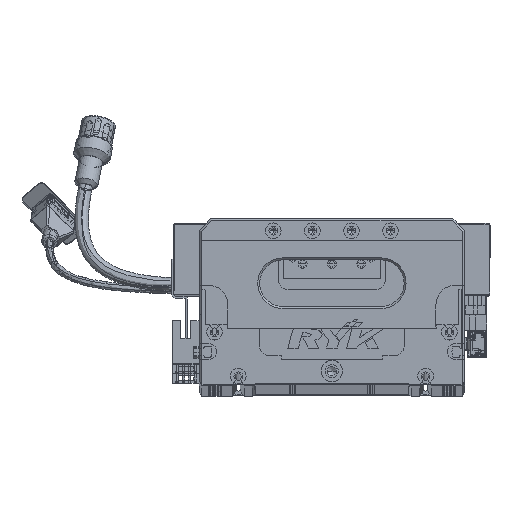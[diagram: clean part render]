
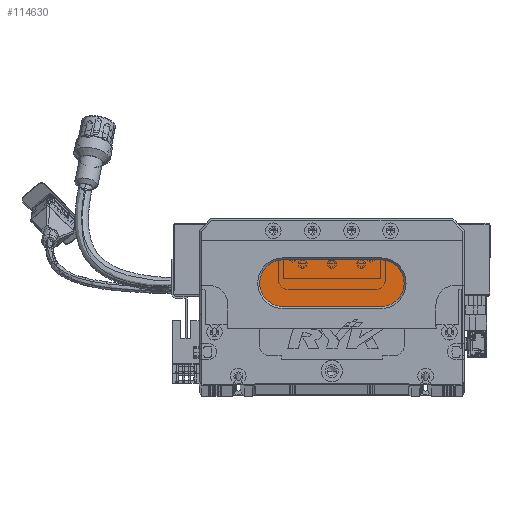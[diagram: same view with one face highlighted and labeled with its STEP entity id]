
A CAD part, top view. The second image highlights one B-rep face of the part: STEP entity #114630.
In plain terms, the highlighted planar face has unit normal (0, 0, 1) as drawn and (0, 0, -1) by its records, which use the part's own axes.
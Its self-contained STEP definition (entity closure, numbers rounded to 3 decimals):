
#1064 = CARTESIAN_POINT ( 'NONE',  ( 31., 52., 13. ) ) ;
#6529 = AXIS2_PLACEMENT_3D ( 'NONE', #105098, #104133, #48613 ) ;
#7645 = VERTEX_POINT ( 'NONE', #124680 ) ;
#11290 = ORIENTED_EDGE ( 'NONE', *, *, #113849, .T. ) ;
#15633 = DIRECTION ( 'NONE',  ( 1., 0., 0. ) ) ;
#16688 = EDGE_LOOP ( 'NONE', ( #47868, #37198, #11290, #114706, #62033 ) ) ;
#16928 = CIRCLE ( 'NONE', #73901, 12. ) ;
#21162 = VECTOR ( 'NONE', #104494, 1000. ) ;
#22829 = DIRECTION ( 'NONE',  ( -1., 0., 0. ) ) ;
#24185 = VERTEX_POINT ( 'NONE', #67180 ) ;
#32217 = CARTESIAN_POINT ( 'NONE',  ( 93., 40., 13. ) ) ;
#32952 = EDGE_CURVE ( 'NONE', #7645, #119935, #66966, .T. ) ;
#34411 = FACE_OUTER_BOUND ( 'NONE', #16688, .T. ) ;
#37198 = ORIENTED_EDGE ( 'NONE', *, *, #71869, .T. ) ;
#45790 = DIRECTION ( 'NONE',  ( 0., 0., -1. ) ) ;
#47868 = ORIENTED_EDGE ( 'NONE', *, *, #32952, .T. ) ;
#48613 = DIRECTION ( 'NONE',  ( -1., 0., 0. ) ) ;
#55262 = DIRECTION ( 'NONE',  ( -1., 0., 0. ) ) ;
#62033 = ORIENTED_EDGE ( 'NONE', *, *, #81603, .T. ) ;
#66966 = CIRCLE ( 'NONE', #108472, 12. ) ;
#67180 = CARTESIAN_POINT ( 'NONE',  ( 43., 64., 13. ) ) ;
#68175 = VERTEX_POINT ( 'NONE', #1064 ) ;
#69073 = DIRECTION ( 'NONE',  ( 0., 0., -1. ) ) ;
#71869 = EDGE_CURVE ( 'NONE', #119935, #127999, #120549, .T. ) ;
#73901 = AXIS2_PLACEMENT_3D ( 'NONE', #136912, #69073, #22829 ) ;
#76506 = CIRCLE ( 'NONE', #78903, 12. ) ;
#78903 = AXIS2_PLACEMENT_3D ( 'NONE', #127682, #126231, #137633 ) ;
#81603 = EDGE_CURVE ( 'NONE', #24185, #7645, #111759, .T. ) ;
#83299 = VECTOR ( 'NONE', #15633, 1000. ) ;
#84711 = CARTESIAN_POINT ( 'NONE',  ( 93., 40., 13. ) ) ;
#91772 = PLANE ( 'NONE',  #6529 ) ;
#104133 = DIRECTION ( 'NONE',  ( 0., 0., -1. ) ) ;
#104494 = DIRECTION ( 'NONE',  ( -1., 0., 0. ) ) ;
#105098 = CARTESIAN_POINT ( 'NONE',  ( 93., 52., 13. ) ) ;
#105419 = CARTESIAN_POINT ( 'NONE',  ( 43., 40., 13. ) ) ;
#108472 = AXIS2_PLACEMENT_3D ( 'NONE', #135539, #45790, #55262 ) ;
#111759 = LINE ( 'NONE', #140076, #83299 ) ;
#113849 = EDGE_CURVE ( 'NONE', #127999, #68175, #16928, .T. ) ;
#114630 = ADVANCED_FACE ( 'NONE', ( #34411 ), #91772, .T. ) ;
#114706 = ORIENTED_EDGE ( 'NONE', *, *, #117630, .T. ) ;
#117630 = EDGE_CURVE ( 'NONE', #68175, #24185, #76506, .T. ) ;
#119935 = VERTEX_POINT ( 'NONE', #32217 ) ;
#120549 = LINE ( 'NONE', #84711, #21162 ) ;
#124680 = CARTESIAN_POINT ( 'NONE',  ( 93., 64., 13. ) ) ;
#126231 = DIRECTION ( 'NONE',  ( 0., 0., -1. ) ) ;
#127682 = CARTESIAN_POINT ( 'NONE',  ( 43., 52., 13. ) ) ;
#127999 = VERTEX_POINT ( 'NONE', #105419 ) ;
#135539 = CARTESIAN_POINT ( 'NONE',  ( 93., 52., 13. ) ) ;
#136912 = CARTESIAN_POINT ( 'NONE',  ( 43., 52., 13. ) ) ;
#137633 = DIRECTION ( 'NONE',  ( -1., 0., 0. ) ) ;
#140076 = CARTESIAN_POINT ( 'NONE',  ( 93., 64., 13. ) ) ;
